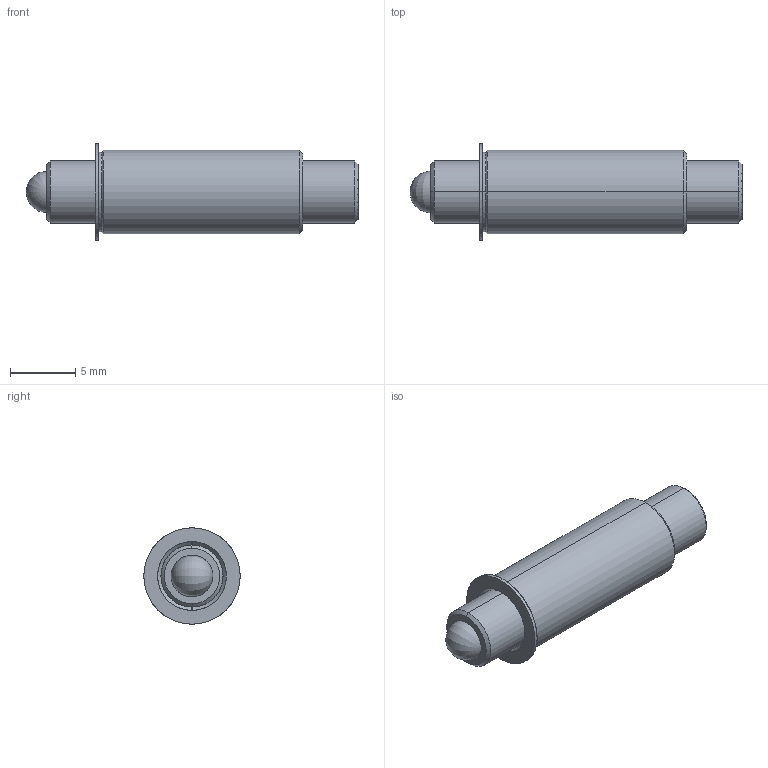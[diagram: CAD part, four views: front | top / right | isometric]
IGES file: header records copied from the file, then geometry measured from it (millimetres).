
Start section: SolidWorks IGES file using analytic representation for surfaces
Global section: file name: C:\Users\workpc\Desktop\KMA Solidworks\TSB187-100-1000_625.IGS; native system: SolidWorks 2013; preprocessor: SolidWorks 2013; author: workpc; date: 130313.092200; units: inch
Bounding box: 25.4 x 7.37 x 7.37 mm (x, y, z)
Surface area: 1023 mm2 (no closed solid volume)
Topology: 0 solids, 0 shells, 35 faces, 414 edges, 410 vertices
Faces by surface type: revolution 24, bspline 11
